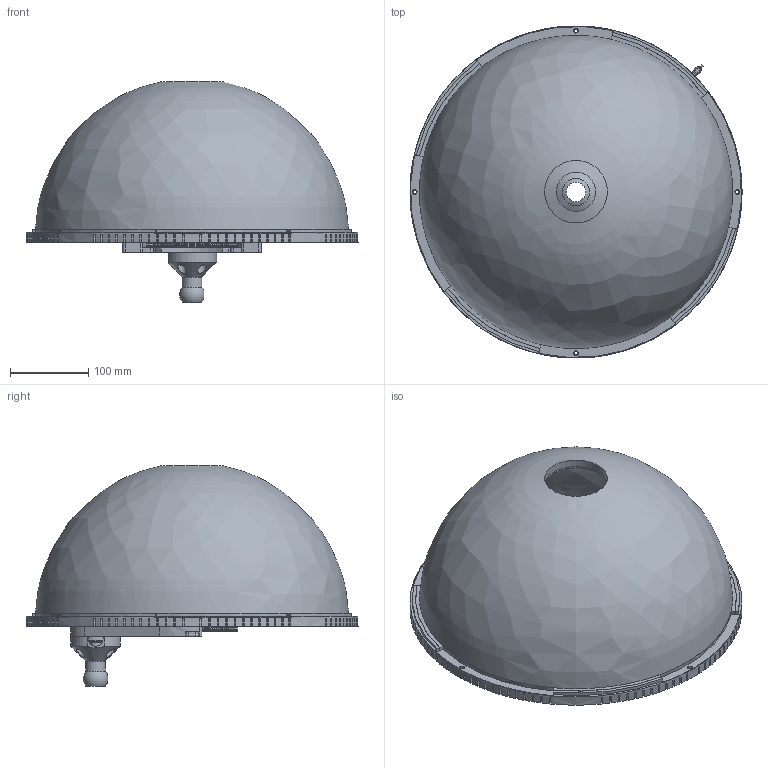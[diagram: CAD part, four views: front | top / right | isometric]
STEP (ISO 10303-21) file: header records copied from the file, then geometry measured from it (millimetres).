
FILE_DESCRIPTION( ( 'Unknown' ), '1' );
FILE_NAME( 'S:/A & P Tool/Start Button Swivel Mount/STP Files for Website/AFSB-650-HPD100-150.stp', 'Unknown', ( 'Unknown' ), ( 'Unknown' ), 'PSStep 15.0.49', 'Unknown', ' ' );
FILE_SCHEMA( ( 'AUTOMOTIVE_DESIGN { 1 0 10303 214 1 1 1 1 }' ) );
Length unit declared in the file: millimetre
Products named in the file (21): HPD_250RD_2_03; 1_1; 2_1; HPD_400RD_2_03; 1_2; 2_2; HPD_150RD_2_03; 1; 2; HPD_100RD_2_03; 1_0; 2_0; Assem1; AFSB1-XS Small Ball Base; SHCS-10 -24 x .5; AFSB-1 Ball Base; Shcs1-4X1-2; AFSB-650-HPD-100-150 Rev 3; AFSB-650-HPD100-150 BRACKET; Shcs M4x14; LHSCS 1-4_20 X 3-8 LG (McM 92220A182)
Assembly tree (35 placements, depth 3):
  Assem1
    AFSB1-XS Small Ball Base  x2
    SHCS-10 -24 x .5  x4
    AFSB-1 Ball Base  x2
    Shcs1-4X1-2  x8
    AFSB-650-HPD-100-150 Rev 3
    AFSB-650-HPD100-150 BRACKET  x2
    Shcs M4x14  x2
    LHSCS 1-4_20 X 3-8 LG (McM 92220A182)  x2
    HPD_150RD_2_03
      1
      2
    HPD_100RD_2_03
      1_0
      2_0
    HPD_250RD_2_03
      1_1
      2_1
    HPD_400RD_2_03
      1_2
      2_2
Bounding box: 423.95 x 423.95 x 281.2 mm (x, y, z)
Volume: 5261462.2 mm3; surface area: 1745063.5 mm2
Topology: 31 solids, 31 shells, 2816 faces, 7889 edges, 5212 vertices
Faces by surface type: plane 2103, cylinder 329, torus 236, cone 126, bspline 12, sphere 10
Full cylindrical faces by diameter (mm): 3 x8, 3.242 x12, 3.785 x4, 4 x2, 4.8 x2, 4.826 x4, 4.917 x4, 5.105 x10, 5.387 x14, 5.613 x4, 6.35 x20, 7 x6, 7.144 x10, 7.239 x4, 8.25 x2, 9.525 x10, 10.319 x2, 10.719 x2, 11.113 x8, 13.494 x2, 19.05 x1, 22.225 x2, 25 x2, 25.4 x2, 34.925 x2, 35 x2, 50 x2, 66 x2, 80 x2, 116 x3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
Entity records: 107032 total; most frequent: CARTESIAN_POINT 19916, ORIENTED_EDGE 14122, DIRECTION 13400, EDGE_CURVE 7061, LINE 4804, VECTOR 4804, VERTEX_POINT 4775, AXIS2_PLACEMENT_3D 4298
